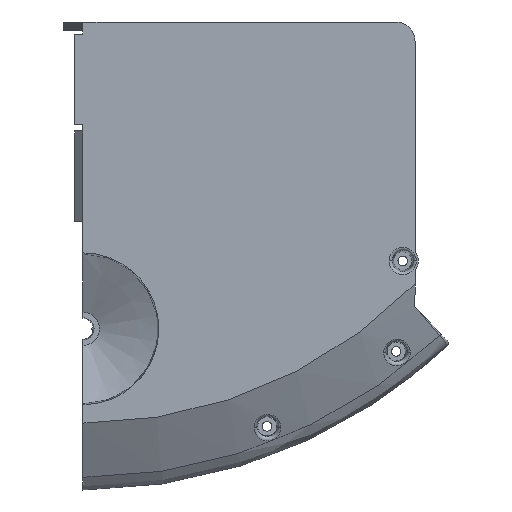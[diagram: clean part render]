
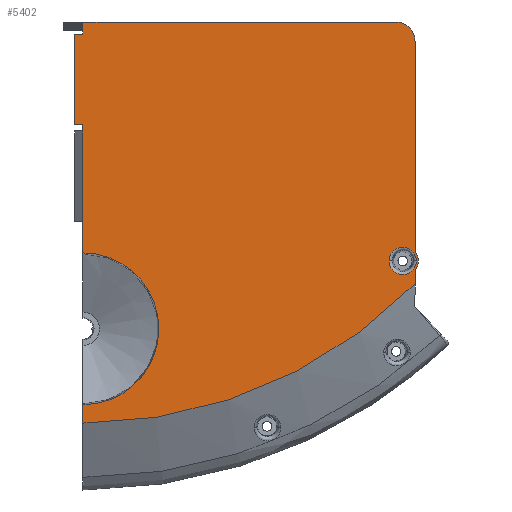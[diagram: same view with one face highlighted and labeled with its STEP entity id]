
A CAD part, front view. The second image highlights one B-rep face of the part: STEP entity #5402.
In plain terms, the highlighted planar face has unit normal (0, -1, 0).
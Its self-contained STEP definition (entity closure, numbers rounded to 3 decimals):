
#2=CARTESIAN_POINT('',(99.,-29.,-94.));
#3=DIRECTION('',(0.,1.,0.));
#4=DIRECTION('',(-1.,0.,0.));
#5=AXIS2_PLACEMENT_3D('',#2,#3,#4);
#7=CARTESIAN_POINT('',(99.,-29.,-94.));
#8=DIRECTION('',(0.,1.,0.));
#9=DIRECTION('',(1.,0.,0.));
#10=AXIS2_PLACEMENT_3D('',#7,#8,#9);
#12=DIRECTION('',(1.,0.,0.));
#13=VECTOR('',#12,2.5);
#14=CARTESIAN_POINT('',(-2.5,-29.,-51.75));
#15=LINE('',#14,#13);
#16=DIRECTION('',(1.,0.,0.));
#17=VECTOR('',#16,2.5);
#18=CARTESIAN_POINT('',(-2.5,-29.,-23.75));
#19=LINE('',#18,#17);
#20=DIRECTION('',(0.,0.,-1.));
#21=VECTOR('',#20,1.);
#22=CARTESIAN_POINT('',(0.,-29.,-22.75));
#23=LINE('',#22,#21);
#24=DIRECTION('',(0.,0.,-1.));
#25=VECTOR('',#24,2.75);
#26=CARTESIAN_POINT('',(0.,-29.,-20.));
#27=LINE('',#26,#25);
#28=DIRECTION('',(1.,0.,0.));
#29=VECTOR('',#28,96.837);
#30=CARTESIAN_POINT('',(0.,-29.,-20.));
#31=LINE('',#30,#29);
#32=CARTESIAN_POINT('',(96.837,-29.,-26.));
#33=DIRECTION('',(0.,-1.,0.));
#34=DIRECTION('',(1.,0.,0.));
#35=AXIS2_PLACEMENT_3D('',#32,#33,#34);
#37=DIRECTION('',(0.,0.,-1.));
#38=VECTOR('',#37,65.055);
#39=CARTESIAN_POINT('',(102.837,-29.,-26.));
#40=LINE('',#39,#38);
#41=CARTESIAN_POINT('',(99.,-29.,-94.));
#42=DIRECTION('',(0.,-1.,0.));
#43=DIRECTION('',(0.793,0.,-0.609));
#44=AXIS2_PLACEMENT_3D('',#41,#42,#43);
#46=DIRECTION('',(0.,0.,-1.));
#47=VECTOR('',#46,4.162);
#48=CARTESIAN_POINT('',(102.837,-29.,-96.945));
#49=LINE('',#48,#47);
#50=CARTESIAN_POINT('',(0.,-29.,0.));
#51=DIRECTION('',(0.,-1.,0.));
#52=DIRECTION('',(0.,0.,-1.));
#53=AXIS2_PLACEMENT_3D('',#50,#51,#52);
#55=DIRECTION('',(0.,0.,-1.));
#56=VECTOR('',#55,5.715);
#57=CARTESIAN_POINT('',(0.,-29.,-138.5));
#58=LINE('',#57,#56);
#59=CARTESIAN_POINT('',(0.,-29.,-115.));
#60=DIRECTION('',(0.,-1.,0.));
#61=DIRECTION('',(0.,0.,-1.));
#62=AXIS2_PLACEMENT_3D('',#59,#60,#61);
#64=DIRECTION('',(0.,0.,-1.));
#65=VECTOR('',#64,28.);
#66=CARTESIAN_POINT('',(0.,-29.,-53.75));
#67=LINE('',#66,#65);
#68=DIRECTION('',(0.,0.,1.));
#69=VECTOR('',#68,2.);
#70=CARTESIAN_POINT('',(0.,-29.,-53.75));
#71=LINE('',#70,#69);
#508=CARTESIAN_POINT('',(102.837,-29.,-96.945));
#510=CARTESIAN_POINT('',(102.837,-29.,-91.055));
#2957=DIRECTION('',(0.,0.,-1.));
#2958=VECTOR('',#2957,28.);
#2959=CARTESIAN_POINT('',(-2.5,-29.,-23.75));
#2960=LINE('',#2959,#2958);
#3033=DIRECTION('',(0.,0.,-1.));
#3034=VECTOR('',#3033,9.75);
#3035=CARTESIAN_POINT('',(0.,-29.,-81.75));
#3036=LINE('',#3035,#3034);
#4330=CARTESIAN_POINT('',(94.779,-29.,-94.));
#4331=CARTESIAN_POINT('',(103.221,-29.,-94.));
#4332=VERTEX_POINT('',#4330);
#4333=VERTEX_POINT('',#4331);
#4392=VERTEX_POINT('',#508);
#4397=CARTESIAN_POINT('',(102.837,-29.,-101.107));
#4398=VERTEX_POINT('',#4397);
#4399=CARTESIAN_POINT('',(102.837,-29.,-26.));
#4400=CARTESIAN_POINT('',(96.837,-29.,-20.));
#4401=VERTEX_POINT('',#4399);
#4402=VERTEX_POINT('',#4400);
#4429=VERTEX_POINT('',#510);
#5241=CARTESIAN_POINT('',(0.,-29.,-144.215));
#5243=VERTEX_POINT('',#5241);
#5248=CARTESIAN_POINT('',(0.,-29.,-138.5));
#5249=VERTEX_POINT('',#5248);
#5280=CARTESIAN_POINT('',(0.,-29.,-91.5));
#5282=VERTEX_POINT('',#5280);
#5319=CARTESIAN_POINT('',(0.,-29.,-20.));
#5320=VERTEX_POINT('',#5319);
#5321=CARTESIAN_POINT('',(-2.5,-29.,-51.75));
#5322=CARTESIAN_POINT('',(0.,-29.,-51.75));
#5323=VERTEX_POINT('',#5321);
#5324=VERTEX_POINT('',#5322);
#5325=CARTESIAN_POINT('',(0.,-29.,-53.75));
#5326=VERTEX_POINT('',#5325);
#5327=CARTESIAN_POINT('',(0.,-29.,-22.75));
#5328=CARTESIAN_POINT('',(0.,-29.,-23.75));
#5329=VERTEX_POINT('',#5327);
#5330=VERTEX_POINT('',#5328);
#5331=CARTESIAN_POINT('',(-2.5,-29.,-23.75));
#5332=VERTEX_POINT('',#5331);
#5347=CARTESIAN_POINT('',(0.,-29.,-81.75));
#5348=VERTEX_POINT('',#5347);
#5357=CARTESIAN_POINT('',(0.,-29.,0.));
#5358=DIRECTION('',(0.,-1.,0.));
#5359=DIRECTION('',(0.,0.,-1.));
#5360=AXIS2_PLACEMENT_3D('',#5357,#5358,#5359);
#5361=PLANE('',#5360);
#5363=ORIENTED_EDGE('',*,*,#5362,.F.);
#5365=ORIENTED_EDGE('',*,*,#5364,.F.);
#5367=ORIENTED_EDGE('',*,*,#5366,.T.);
#5369=ORIENTED_EDGE('',*,*,#5368,.F.);
#5371=ORIENTED_EDGE('',*,*,#5370,.F.);
#5373=ORIENTED_EDGE('',*,*,#5372,.T.);
#5375=ORIENTED_EDGE('',*,*,#5374,.F.);
#5377=ORIENTED_EDGE('',*,*,#5376,.T.);
#5379=ORIENTED_EDGE('',*,*,#5378,.F.);
#5381=ORIENTED_EDGE('',*,*,#5380,.T.);
#5383=ORIENTED_EDGE('',*,*,#5382,.F.);
#5385=ORIENTED_EDGE('',*,*,#5384,.F.);
#5387=ORIENTED_EDGE('',*,*,#5386,.T.);
#5389=ORIENTED_EDGE('',*,*,#5388,.F.);
#5391=ORIENTED_EDGE('',*,*,#5390,.F.);
#5393=ORIENTED_EDGE('',*,*,#5392,.T.);
#5394=EDGE_LOOP('',(#5363,#5365,#5367,#5369,#5371,#5373,#5375,#5377,#5379,#5381,
#5383,#5385,#5387,#5389,#5391,#5393));
#5395=FACE_OUTER_BOUND('',#5394,.F.);
#5397=ORIENTED_EDGE('',*,*,#5396,.F.);
#5399=ORIENTED_EDGE('',*,*,#5398,.F.);
#5400=EDGE_LOOP('',(#5397,#5399));
#5401=FACE_BOUND('',#5400,.F.);
#5402=ADVANCED_FACE('',(#5395,#5401),#5361,.T.);
#6=CIRCLE('',#5,4.221);
#11=CIRCLE('',#10,4.221);
#36=CIRCLE('',#35,6.);
#45=CIRCLE('',#44,4.837);
#54=CIRCLE('',#53,144.215);
#63=CIRCLE('',#62,23.5);
#5362=EDGE_CURVE('',#5323,#5324,#15,.T.);
#5364=EDGE_CURVE('',#5332,#5323,#2960,.T.);
#5366=EDGE_CURVE('',#5332,#5330,#19,.T.);
#5368=EDGE_CURVE('',#5329,#5330,#23,.T.);
#5370=EDGE_CURVE('',#5320,#5329,#27,.T.);
#5372=EDGE_CURVE('',#5320,#4402,#31,.T.);
#5374=EDGE_CURVE('',#4401,#4402,#36,.T.);
#5376=EDGE_CURVE('',#4401,#4429,#40,.T.);
#5378=EDGE_CURVE('',#4392,#4429,#45,.T.);
#5380=EDGE_CURVE('',#4392,#4398,#49,.T.);
#5382=EDGE_CURVE('',#5243,#4398,#54,.T.);
#5384=EDGE_CURVE('',#5249,#5243,#58,.T.);
#5386=EDGE_CURVE('',#5249,#5282,#63,.T.);
#5388=EDGE_CURVE('',#5348,#5282,#3036,.T.);
#5390=EDGE_CURVE('',#5326,#5348,#67,.T.);
#5392=EDGE_CURVE('',#5326,#5324,#71,.T.);
#5396=EDGE_CURVE('',#4332,#4333,#6,.T.);
#5398=EDGE_CURVE('',#4333,#4332,#11,.T.);
